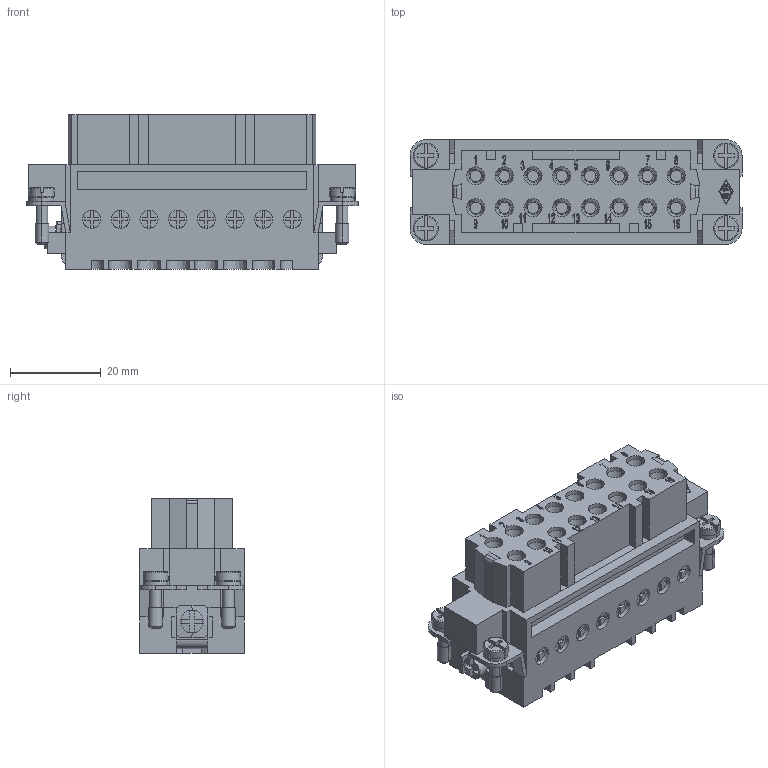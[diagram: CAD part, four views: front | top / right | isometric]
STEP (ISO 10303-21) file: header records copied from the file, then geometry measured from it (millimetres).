
FILE_DESCRIPTION((''),'2;1');
FILE_NAME('B:\MITARBEITER\Gembarski\Inventor\TEMP\Einsätze\IPT\STP\CDAF 16.stp','2006-11-09T09:55:58',('gembarski'),(''),'Autodesk Inventor 7','Autodesk Inventor 7','');
FILE_SCHEMA(('AUTOMOTIVE_DESIGN { 1 0 10303 214 1 1 1 1 }'));
Length unit declared in the file: millimetre
Products named in the file (1): CDAF 16
Bounding box: 73 x 23 x 34.01 mm (x, y, z)
Volume: 33035.8 mm3; surface area: 26392.4 mm2
Topology: 17 solids, 17 shells, 1873 faces, 4898 edges, 3211 vertices
Faces by surface type: bspline 842, plane 799, cylinder 200, cone 20, torus 8, sphere 4
Entity records: 62572 total; most frequent: CARTESIAN_POINT 19373, ORIENTED_EDGE 9800, DIRECTION 7325, EDGE_CURVE 4900, VECTOR 3275, LINE 3275, VERTEX_POINT 3211, EDGE_LOOP 2071
